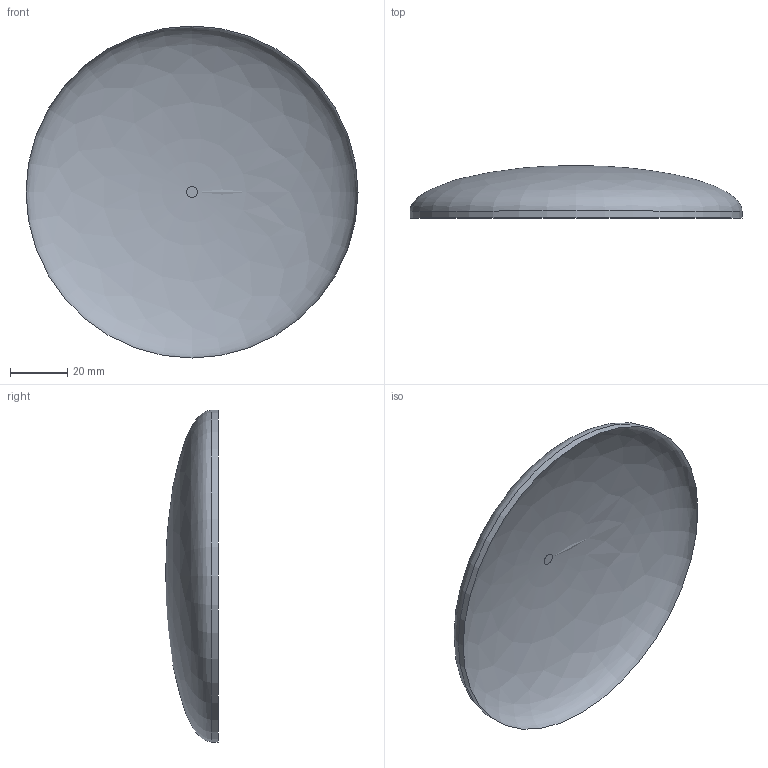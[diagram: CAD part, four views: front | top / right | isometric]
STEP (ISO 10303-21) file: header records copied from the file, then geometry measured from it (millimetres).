
FILE_DESCRIPTION(('Open CASCADE Model'),'2;1');
FILE_NAME('Open CASCADE Shape Model','2026-10-18T12:27:28',('Author'),( 'Open CASCADE'),'Open CASCADE STEP processor 8.0','Open CASCADE 8.0' ,'Unknown');
FILE_SCHEMA(('AUTOMOTIVE_DESIGN { 1 0 10303 214 1 1 1 1 }'));
Length unit declared in the file: millimetre
Products named in the file (1): Open CASCADE STEP translator 8.0 4
Bounding box: 116.4 x 18.4 x 116.4 mm (x, y, z)
Volume: 25539.2 mm3; surface area: 25450.7 mm2
Topology: 1 solids, 1 shells, 5 faces, 7 edges, 4 vertices
Faces by surface type: revolution 2, plane 2, cylinder 1
Full cylindrical faces by diameter (mm): 116.4 x1
Entity records: 220 total; most frequent: DIRECTION 41, CARTESIAN_POINT 33, ORIENTED_EDGE 14, PCURVE 14, DEFINITIONAL_REPRESENTATION 14, LINE 13, VECTOR 13, AXIS2_PLACEMENT_3D 12
